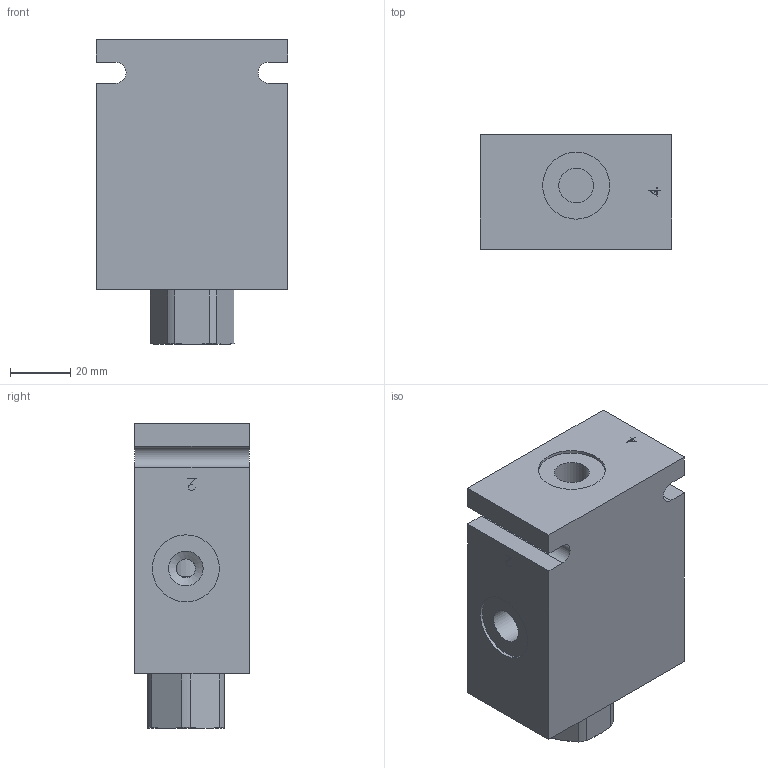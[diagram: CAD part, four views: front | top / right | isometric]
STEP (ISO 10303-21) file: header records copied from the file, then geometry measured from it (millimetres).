
FILE_DESCRIPTION(/* description */ ('Unknown'),/* implementation_level */ '2;1');
FILE_NAME(/* name */ 'D-DGPDI00-A4',/* time_stamp */ '2019-03-12T10:43:25+00:00',/* author */ ('Unknown'),/* organization */ ('Unknown'),/* preprocessor_version */ 'ST-DEVELOPER v16.7',/* originating_system */ 'DEX',/* authorisation */ $);
FILE_SCHEMA (('AUTOMOTIVE_DESIGN {1 0 10303 214 3 1 1}'));
Length unit declared in the file: millimetre
Products named in the file (11): DGPDI-3D FULL; 35802025-EXT; 35202226-EXT; 60188910; 60108016; 60108015; 60108014; 60420016; 60420015; 60420014; B-DDGA4
Assembly tree (13 placements, depth 2):
  DGPDI-3D FULL
    35802025-EXT
    35202226-EXT
    60188910
    60108016
    60108015
    60108014
    60420016  x2
    60420015  x2
    60420014  x2
    B-DDGA4
Bounding box: 63.5 x 38.1 x 101.05 mm (x, y, z)
Volume: 193904.6 mm3; surface area: 38681.8 mm2
Topology: 13 solids, 13 shells, 234 faces, 545 edges, 350 vertices
Faces by surface type: plane 137, cylinder 61, cone 31, torus 5
Full cylindrical faces by diameter (mm): 0.2 x4, 6.3 x2, 11 x1, 11.5 x7, 12.7 x2, 12.992 x1, 14 x1, 14.275 x1, 14.592 x1, 14.605 x2, 15.392 x2, 15.469 x1, 15.723 x2, 15.875 x1, 15.9 x1, 16.167 x3, 17.302 x2, 17.323 x3, 17.399 x1, 17.501 x1, 18.86 x2, 18.898 x2, 19.075 x1, 19.622 x1, 20.262 x2, 22.22 x4, 22.225 x1, 30.175 x1
Entity records: 6971 total; most frequent: CARTESIAN_POINT 1230, ORIENTED_EDGE 862, DIRECTION 839, EDGE_CURVE 431, AXIS2_PLACEMENT_3D 358, FACE_BOUND 326, EDGE_LOOP 322, VERTEX_POINT 319
